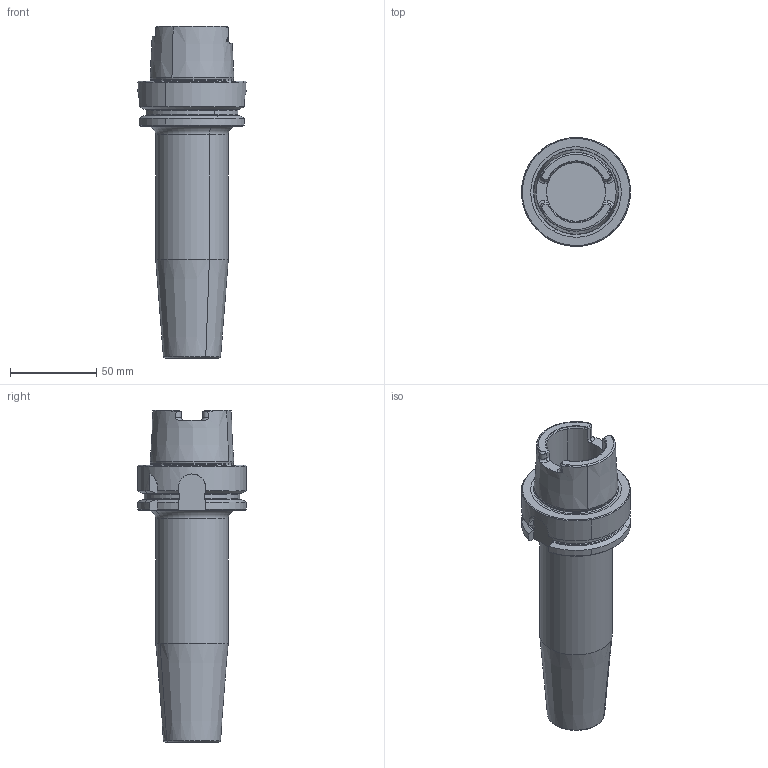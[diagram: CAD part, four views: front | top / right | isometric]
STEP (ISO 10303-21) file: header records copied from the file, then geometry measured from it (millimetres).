
FILE_DESCRIPTION(('CATIA V5 STEP','CAx-IF Rec.Pracs.--- Model Styling and Organization---1.2---2011-12-15'),'2;1');
FILE_NAME('\\nas01\drv1\utils\eitdev\rte\eit\transmagicconvert\db\out\4504030 L.stp','2014-04-01T09:02:58+00:00',('none'),('none'),'CATIA Version 5 Release 21 SP 5 (IN-10)','CATIA V5 STEP AP214','none');
FILE_SCHEMA(('AUTOMOTIVE_DESIGN { 1 0 10303 214 1 1 1 1 }'));
Length unit declared in the file: millimetre
Products named in the file (1): 60790213_0 Holder-Tool HSK A 63 SRKIN 20X160
Bounding box: 62.99 x 63 x 192 mm (x, y, z)
Volume: 259979.7 mm3; surface area: 37172.5 mm2
Topology: 1 solids, 1 shells, 134 faces, 345 edges, 216 vertices
Faces by surface type: plane 41, cone 33, cylinder 32, torus 28
Entity records: 4160 total; most frequent: CARTESIAN_POINT 1276, ORIENTED_EDGE 690, DIRECTION 426, EDGE_CURVE 345, AXIS2_PLACEMENT_3D 229, VERTEX_POINT 216, CIRCLE 149, EDGE_LOOP 137
